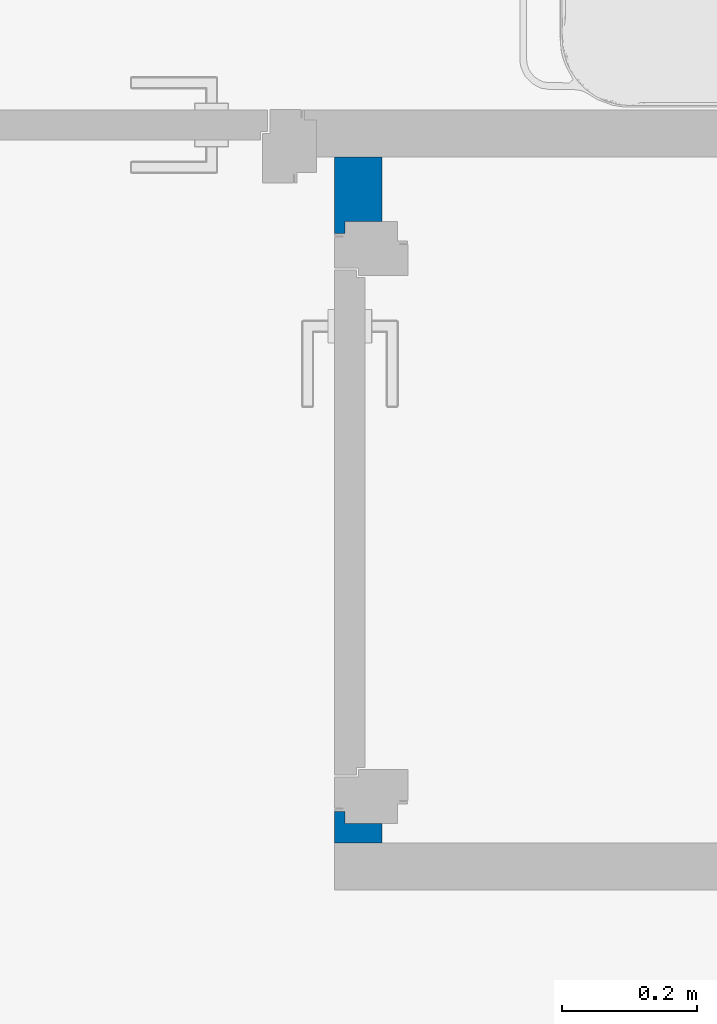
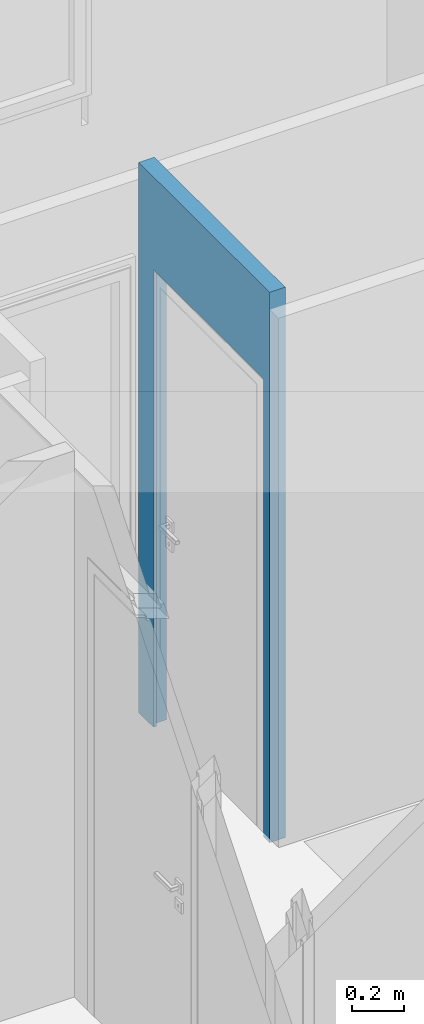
# One storey, part 32 of 61: 1 wall, 1 opening.
"""IFC2X3 building model written with IfcOpenShell, lengths in metres."""

from ifc_helpers import new_model, entity, si_unit, converted_unit, derived_unit, direction, frame, frame_2d, origin, place, context, subcontext, project, spatial, rectangle, extrude, faceted_brep, material, layer, layer_set, layer_usage, type_object, element, save


model = new_model("IFC2X3")

# Units and contexts
model_context = context("Model", 3, precision=1e-05, world=origin(), true_north=direction((6.12303176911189e-17, 1.0)))
body_context = subcontext(model_context, "Body", "Model", "MODEL_VIEW")
ifc_project = project(units=[si_unit("LENGTHUNIT", "METRE"), si_unit("AREAUNIT", "SQUARE_METRE"), si_unit("VOLUMEUNIT", "CUBIC_METRE"), converted_unit("PLANEANGLEUNIT", "DEGREE", entity("IfcRatioMeasure", 0.0174532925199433), si_unit("PLANEANGLEUNIT", "RADIAN"), dimensions=[0, 0, 0, 0, 0, 0, 0]), si_unit("MASSUNIT", "GRAM", prefix="KILO"), derived_unit("MASSDENSITYUNIT", [(si_unit("MASSUNIT", "GRAM", prefix="KILO"), 1), (si_unit("LENGTHUNIT", "METRE"), -3)]), si_unit("TIMEUNIT", "SECOND"), si_unit("FREQUENCYUNIT", "HERTZ"), si_unit("THERMODYNAMICTEMPERATUREUNIT", "DEGREE_CELSIUS"), derived_unit("THERMALTRANSMITTANCEUNIT", [(si_unit("MASSUNIT", "GRAM", prefix="KILO"), 1), (si_unit("THERMODYNAMICTEMPERATUREUNIT", "KELVIN"), -1), (si_unit("TIMEUNIT", "SECOND"), -3)]), derived_unit("VOLUMETRICFLOWRATEUNIT", [(si_unit("LENGTHUNIT", "METRE"), 3), (si_unit("TIMEUNIT", "SECOND"), -1)]), si_unit("ELECTRICCURRENTUNIT", "AMPERE"), si_unit("ELECTRICVOLTAGEUNIT", "VOLT"), si_unit("POWERUNIT", "WATT"), si_unit("FORCEUNIT", "NEWTON", prefix="KILO"), si_unit("ILLUMINANCEUNIT", "LUX"), si_unit("LUMINOUSFLUXUNIT", "LUMEN"), si_unit("LUMINOUSINTENSITYUNIT", "CANDELA"), derived_unit("USERDEFINED", [(si_unit("MASSUNIT", "GRAM", prefix="KILO"), -1), (si_unit("LENGTHUNIT", "METRE"), -2), (si_unit("TIMEUNIT", "SECOND"), 3), (si_unit("LUMINOUSFLUXUNIT", "LUMEN"), 1)]), derived_unit("LINEARVELOCITYUNIT", [(si_unit("LENGTHUNIT", "METRE"), 1), (si_unit("TIMEUNIT", "SECOND"), -1)]), si_unit("PRESSUREUNIT", "PASCAL"), derived_unit("USERDEFINED", [(si_unit("LENGTHUNIT", "METRE"), -2), (si_unit("MASSUNIT", "GRAM", prefix="KILO"), 1), (si_unit("TIMEUNIT", "SECOND"), -2)])], contexts=[model_context])

# Site, building, storey
site_placement = place(None, origin())
site = spatial("IfcSite", under=ifc_project, at=site_placement, Name="Surface", CompositionType="ELEMENT")
building_placement = place(site_placement, origin())
building = spatial("IfcBuilding", under=site, at=building_placement, CompositionType="ELEMENT")
storey_placement = place(building_placement, frame((0.0, 0.0, 2.82)))
storey = spatial("IfcBuildingStorey", under=building, at=storey_placement, Name="ETAGE", CompositionType="ELEMENT", Elevation=2.82)

# Wall, opening
ifc_material = material(Name="Peinture - Blanc")
ifc_layer = layer(ifc_material, 0.07)
ifc_layer_set = layer_set([ifc_layer], Name="Mur de base:Int.  Platre 70 mm en blanc")
ifc_layer_usage = layer_usage(ifc_layer_set, "AXIS2", "POSITIVE", -0.035)
wall_type = type_object("IfcWallType", Name="Mur de base:Int.  Platre 70 mm en blanc", PredefinedType="STANDARD", material=ifc_layer_set)
wall_placement = place(storey_placement, frame((80.9843531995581, 88.5842045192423, 0.0), z_axis=(0.0, 0.0, 1.0), x_axis=(0.0, 1.0, 0.0)))
wall = element("IfcWallStandardCase", 1, at=wall_placement, inside=storey, type_object=wall_type, material=ifc_layer_usage, Name="Mur de base:Int.  Platre 70 mm en blanc", ObjectType="Mur de base:Int.  Platre 70 mm en blanc", context=body_context, shape_type="SweptSolid", body=[
    extrude(rectangle(XDim=1.0133194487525, YDim=0.0699999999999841, at=frame_2d((0.506659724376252, 0.0), x_axis=(-1.0, 0.0))), origin(), (0.0, 0.0, 1.0), 2.6),
])
opening_placement = place(wall_placement, frame((0.0283194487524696, 0.214999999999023, 0.0), z_axis=(0.0, 0.0, 1.0), x_axis=(0.0, -1.0, 0.0)))
element("IfcOpeningElement", 2, at=opening_placement, cuts=wall, Name="Mur de base:Int.  Platre 70 mm en blanc", ObjectType="Opening", context=body_context, shape_type="Brep", body=[
    faceted_brep([(0.0, 0.0799999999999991, 2.09999999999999), (0.0, 0.810000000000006, 2.09999999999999), (0.0, 0.810000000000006, 0.0), (0.0, 0.0799999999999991, 0.0), (0.893399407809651, 0.0799999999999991, 2.09999999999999), (0.893399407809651, 0.0799999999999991, 0.0), (0.893399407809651, 0.810000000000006, 0.0), (0.893399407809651, 0.810000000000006, 2.09999999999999), (0.179999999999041, 0.0799999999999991, 0.0), (0.179999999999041, 0.0799999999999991, 2.09999999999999), (0.179999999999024, 0.810000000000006, 0.0), (0.179999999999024, 0.871999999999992, 0.0), (0.194999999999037, 0.871999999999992, 0.0), (0.194999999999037, 0.890000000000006, 0.0), (0.272999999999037, 0.890000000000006, 0.0), (0.272999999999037, 0.860999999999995, 0.0), (0.249999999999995, 0.860999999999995, 0.0), (0.249999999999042, 0.809999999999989, 0.0), (0.249999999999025, 0.0799999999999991, 0.0), (0.249999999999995, 0.0290000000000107, 0.0), (0.272999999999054, 0.0290000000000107, 0.0), (0.272999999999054, 0.0, 0.0), (0.194999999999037, 0.0, 0.0), (0.194999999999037, 0.0180000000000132, 0.0), (0.179999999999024, 0.0180000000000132, 0.0), (0.179999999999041, 0.809999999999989, 2.09999999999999), (0.249999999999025, 0.0799999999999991, 2.09999999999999), (0.250000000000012, 0.0690000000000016, 2.09999999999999), (0.249999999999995, 0.0690000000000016, 2.11099999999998), (0.249999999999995, 0.820999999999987, 2.11099999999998), (0.249999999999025, 0.820999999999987, 2.09999999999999), (0.249999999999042, 0.809999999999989, 2.09999999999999), (0.249999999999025, 0.860999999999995, 2.15099999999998), (0.249999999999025, 0.0290000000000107, 2.15099999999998), (0.179999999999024, 0.0179999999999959, 2.16199999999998), (0.179999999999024, 0.871999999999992, 2.16199999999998), (0.250499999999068, 0.0690000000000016, 2.09999999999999), (0.250499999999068, 0.0690000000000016, 2.11099999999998), (0.250499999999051, 0.820999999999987, 2.11099999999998), (0.250499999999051, 0.820999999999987, 2.09999999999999), (0.250499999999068, 0.0799999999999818, 2.09999999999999), (0.250499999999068, 0.809999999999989, 2.09999999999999), (0.194999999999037, 0.0179999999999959, 2.16199999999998), (0.194999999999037, 0.0, 2.17999999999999), (0.194999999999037, 0.889999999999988, 2.17999999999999), (0.194999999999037, 0.871999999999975, 2.16199999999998), (0.272999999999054, 0.0, 2.17999999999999), (0.272999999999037, 0.0290000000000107, 2.15099999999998), (0.272999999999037, 0.860999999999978, 2.15099999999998), (0.272999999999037, 0.889999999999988, 2.17999999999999)], [[[0, 1, 2, 3]], [[4, 5, 6, 7]], [[0, 3, 8, 9]], [[3, 2, 10, 11, 12, 13, 14, 15, 16, 17, 6, 5, 18, 19, 20, 21, 22, 23, 24, 8]], [[2, 1, 25, 10]], [[1, 0, 9, 25]], [[19, 18, 26, 27, 28, 29, 30, 31, 17, 16, 32, 33]], [[8, 24, 34, 35, 11, 10, 25, 9]], [[36, 37, 28, 27]], [[38, 39, 30, 29]], [[37, 38, 29, 28]], [[39, 38, 37, 36, 40, 41]], [[40, 36, 27, 26]], [[24, 23, 42, 34]], [[23, 22, 43, 44, 13, 12, 45, 42]], [[22, 21, 46, 43]], [[21, 20, 47, 48, 15, 14, 49, 46]], [[20, 19, 33, 47]], [[35, 34, 42, 45]], [[44, 43, 46, 49]], [[33, 32, 48, 47]], [[11, 35, 45, 12]], [[13, 44, 49, 14]], [[32, 16, 15, 48]], [[39, 41, 31, 30]], [[4, 7, 41, 40]], [[7, 6, 17, 31, 41]], [[5, 4, 40, 26, 18]]]),
])

save(model, "model.ifc")
